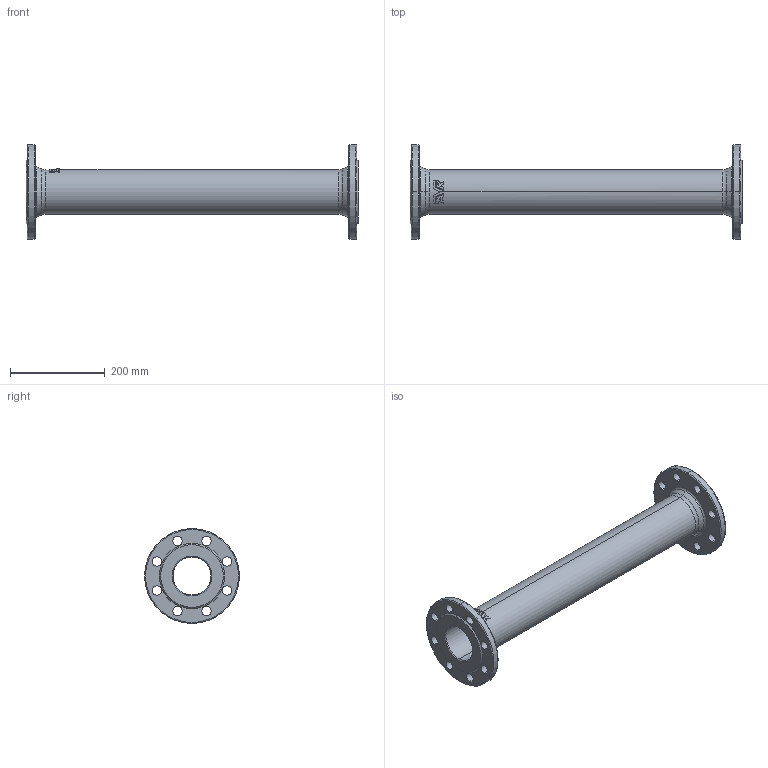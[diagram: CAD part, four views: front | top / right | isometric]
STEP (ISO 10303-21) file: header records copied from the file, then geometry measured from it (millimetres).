
FILE_DESCRIPTION (( 'STEP AP203' ), '1' );
FILE_NAME ('O_712_5010_DN80_1X_REV01.step', '2021-12-03T09:30:24', ( '' ), ( '' ), 'SwSTEP 2.0', 'SolidWorks 2019', '' );
FILE_SCHEMA (( 'CONFIG_CONTROL_DESIGN' ));
Length unit declared in the file: millimetre
Products named in the file (1): O_712_5010_DN80_1X_REV01
Bounding box: 700 x 200 x 200 mm (x, y, z)
Volume: 2129161 mm3; surface area: 494464.6 mm2
Topology: 1 solids, 1 shells, 116 faces, 297 edges, 190 vertices
Faces by surface type: cylinder 45, bspline 24, plane 19, torus 16, cone 12
Entity records: 4543 total; most frequent: CARTESIAN_POINT 1732, ORIENTED_EDGE 594, DIRECTION 519, EDGE_CURVE 297, AXIS2_PLACEMENT_3D 221, VERTEX_POINT 190, EDGE_LOOP 157, CIRCLE 128
